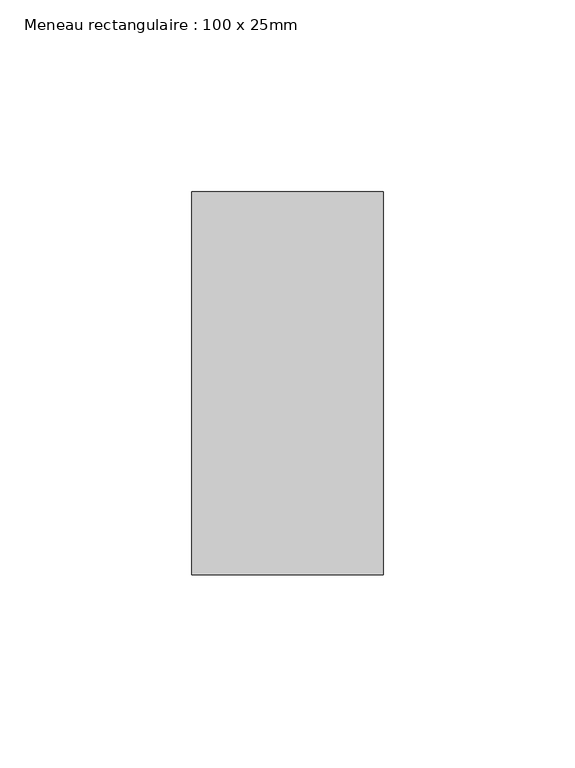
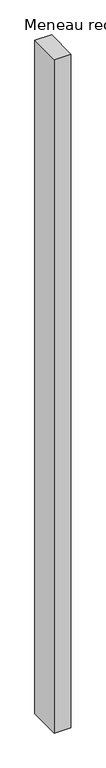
"""IFC4 building model written with IfcOpenShell, lengths in millimetres: member geometry, Meneau rectangulaire : 100 x 25mm."""

from ifc_helpers import new_model, si_unit, frame, origin, place, context, project, spatial, polyline, outline, extrude, source, transform, mapped, element, save


def meneau_rectangulaire_100_x_25mm_7f80b84f(model_context):
    return source(origin(), model_context, "Body", "SweptSolid", [
        extrude(outline(polyline([(0.0, 50.0), (0.0, -50.0), (-50.0, -50.0), (-50.0, 50.0), (0.0, 50.0)])), frame((0.0, 0.0, -2137.915043), z_axis=(0.0, 0.0, 1.0), x_axis=(1.0, 0.0, 0.0)), (0.0, 0.0, 1.0), 2137.915043),
    ])


if __name__ == "__main__":
    model = new_model("IFC4")
    model_context = context("Model", 3, world=origin())
    ifc_project = project(units=[si_unit("LENGTHUNIT", "METRE", prefix="MILLI")], contexts=[model_context])
    site = spatial("IfcSite", under=ifc_project)
    building = spatial("IfcBuilding", under=site)
    placement = place(None, origin())
    meneau_rectangulaire_100_x_25mm_shape = meneau_rectangulaire_100_x_25mm_7f80b84f(model_context)
    element("IfcMember", 1, ObjectType="Meneau rectangulaire : 100 x 25mm", at=placement, inside=building, context=model_context, shape_type="MappedRepresentation", body=[
        mapped(meneau_rectangulaire_100_x_25mm_shape, transform((0.0, 0.0, 0.0), x_axis=(1.0, 0.0, 0.0), y_axis=(0.0, 1.0, 0.0), z_axis=(0.0, 0.0, 1.0))),
    ])
    save(model, "model.ifc")
